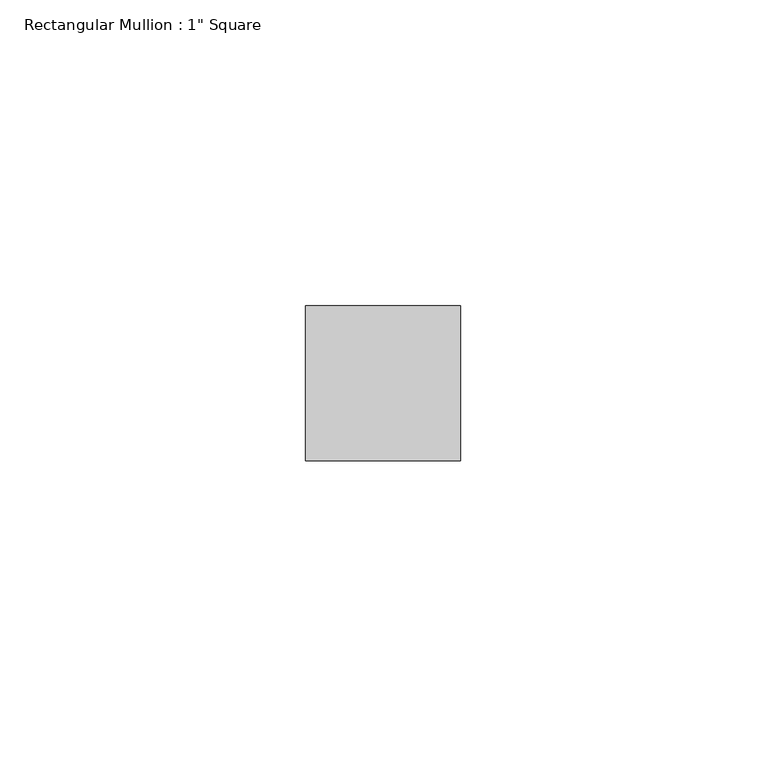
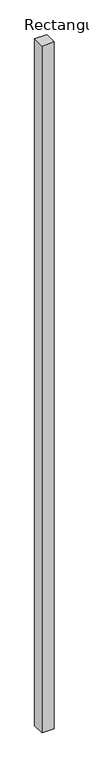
"""IFC4 building model written with IfcOpenShell, lengths in millimetres: member geometry."""

import ifcopenshell
import ifcopenshell.guid

model = None  # the IFC model being written
_history = None  # IfcOwnerHistory: only IFC2X3 demands one
_inside = {}  # id of a spatial element -> (the spatial element, [elements in it])
_under = {}  # id of a project, library or spatial element -> (it, [spatial elements below it])
_declared = {}  # id of a project -> (the project, [libraries it declares])
_typed = {}  # id of a type object -> (the type object, [elements of that type])
_made_of = {}  # id of a material, layer set ... -> (it, [elements and type objects made of it])


def new_model(schema):
    """Start an empty IFC model of exactly this schema.

    Asked for "IFC4X3", IfcOpenShell would pick the latest addendum, in which some entities
    have other attributes; the version numbers below select the first issue.
    IFC2X3 requires an IfcOwnerHistory on every rooted entity: one is made here for all.
    """
    global model, _history
    if schema == "IFC4X3":
        model = ifcopenshell.file(schema_version=(4, 3, 0, 0))
    else:
        model = ifcopenshell.file(schema=schema)
    _inside.clear()
    _under.clear()
    _declared.clear()
    _typed.clear()
    _made_of.clear()
    _history = None
    if model.schema == "IFC2X3":
        org = make("IfcOrganization", Name="unknown")
        user = make(
            "IfcPersonAndOrganization",
            ThePerson=make("IfcPerson", FamilyName="unknown"),
            TheOrganization=org,
        )
        app = make(
            "IfcApplication",
            ApplicationDeveloper=org,
            Version="unknown",
            ApplicationFullName="unknown",
            ApplicationIdentifier="unknown",
        )
        _history = make(
            "IfcOwnerHistory",
            OwningUser=user,
            OwningApplication=app,
            ChangeAction="ADDED",
            CreationDate=0,
        )
    return model


def make(cls, **values):
    """One entity of the class cls with the attributes given. An attribute that is None is left unset."""
    return model.create_entity(
        cls, **{name: value for name, value in values.items() if value is not None}
    )


def rooted(cls, **values):
    """An entity with a GlobalId (a new one), such as an element, a storey or a relation."""
    return make(cls, GlobalId=ifcopenshell.guid.new(), OwnerHistory=_history, **values)


def si_unit(unit_type, name, prefix=None):
    """IfcSIUnit, for example si_unit("LENGTHUNIT", "METRE", prefix="MILLI")."""
    return make("IfcSIUnit", UnitType=unit_type, Prefix=prefix, Name=name)


def assignment(units):
    """IfcUnitAssignment: the units of a project."""
    return None if units is None else make("IfcUnitAssignment", Units=units)


def point(xyz):
    """IfcCartesianPoint."""
    return None if xyz is None else make("IfcCartesianPoint", Coordinates=xyz)


def direction(xyz):
    """IfcDirection."""
    return None if xyz is None else make("IfcDirection", DirectionRatios=xyz)


def frame(location, z_axis=None, x_axis=None):
    """IfcAxis2Placement3D, a coordinate frame: its origin and axes. An axis left out is left unset."""
    return make(
        "IfcAxis2Placement3D",
        Location=point(location),
        Axis=direction(z_axis),
        RefDirection=direction(x_axis),
    )


def origin():
    """The frame at (0, 0, 0) with its axes left unset."""
    return frame((0.0, 0.0, 0.0))


def place(relative_to, where):
    """IfcLocalPlacement: puts the frame where relative to a parent placement (None: the world)."""
    return make(
        "IfcLocalPlacement", PlacementRelTo=relative_to, RelativePlacement=where
    )


def context(
    kind, dimensions, precision=None, world=None, true_north=None, identifier=None
):
    """IfcGeometricRepresentationContext, for example the 3D "Model" context."""
    return make(
        "IfcGeometricRepresentationContext",
        ContextIdentifier=identifier,
        ContextType=kind,
        CoordinateSpaceDimension=dimensions,
        Precision=precision,
        WorldCoordinateSystem=world,
        TrueNorth=true_north,
    )


def project(units=None, contexts=None):
    """IfcProject with its units and contexts."""
    return rooted(
        "IfcProject",
        Name="project",
        RepresentationContexts=contexts,
        UnitsInContext=assignment(units),
    )


def spatial(cls, under=None, at=None, **own):
    """A site, building, storey or space (cls), placed at a placement, below another one or the project."""
    s = rooted(cls, ObjectPlacement=at, **own)
    if under is not None:
        _under.setdefault(under.id(), (under, []))[1].append(s)
    return s


def polyline(points):
    """IfcPolyline through the points."""
    return make("IfcPolyline", Points=[point(p) for p in points])


def outline(outer, holes=None, kind="AREA"):
    """IfcArbitraryClosedProfileDef: a profile drawn as a closed curve; with holes, ...WithVoids."""
    if holes is None:
        return make("IfcArbitraryClosedProfileDef", ProfileType=kind, OuterCurve=outer)
    return make(
        "IfcArbitraryProfileDefWithVoids",
        ProfileType=kind,
        OuterCurve=outer,
        InnerCurves=holes,
    )


def extrude(swept, where, along, depth):
    """IfcExtrudedAreaSolid: the profile swept, set in the frame where, extruded along a direction by depth."""
    return make(
        "IfcExtrudedAreaSolid",
        SweptArea=swept,
        Position=where,
        ExtrudedDirection=direction(along),
        Depth=depth,
    )


def shape(context_of_items, identifier, shape_type, items):
    """IfcShapeRepresentation: the items that make up one representation, for example the "Body"."""
    return make(
        "IfcShapeRepresentation",
        ContextOfItems=context_of_items,
        RepresentationIdentifier=identifier,
        RepresentationType=shape_type,
        Items=items,
    )


def source(mapping_origin, context_of_items, identifier, shape_type, items):
    """IfcRepresentationMap: a shape defined once, which mapped items show again and again."""
    return make(
        "IfcRepresentationMap",
        MappingOrigin=mapping_origin,
        MappedRepresentation=shape(context_of_items, identifier, shape_type, items),
    )


def transform(
    local_origin,
    x_axis=None,
    y_axis=None,
    z_axis=None,
    scale=None,
    scale2=None,
    scale3=None,
    uniform=True,
):
    """IfcCartesianTransformationOperator3D, or its non-uniform kind. x_axis, y_axis, z_axis: its Axis1, 2, 3."""
    if uniform:
        return make(
            "IfcCartesianTransformationOperator3D",
            Axis1=direction(x_axis),
            Axis2=direction(y_axis),
            LocalOrigin=point(local_origin),
            Scale=scale,
            Axis3=direction(z_axis),
        )
    return make(
        "IfcCartesianTransformationOperator3DnonUniform",
        Axis1=direction(x_axis),
        Axis2=direction(y_axis),
        LocalOrigin=point(local_origin),
        Scale=scale,
        Axis3=direction(z_axis),
        Scale2=scale2,
        Scale3=scale3,
    )


def mapped(mapping_source, mapping_target):
    """IfcMappedItem: shows the shape of a source again, moved by a transform."""
    return make(
        "IfcMappedItem", MappingSource=mapping_source, MappingTarget=mapping_target
    )


def made_of(thing, what):
    """Note that an element or type object is made of a material, layer set ...; save() writes the relation."""
    if what is not None:
        _made_of.setdefault(what.id(), (what, []))[1].append(thing)
    return thing


def element(
    cls,
    number,
    at=None,
    inside=None,
    cuts=None,
    type_object=None,
    material=None,
    context=None,
    identifier="Body",
    shape_type=None,
    held_by="IfcProductDefinitionShape",
    body=None,
    shapes=None,
    **own,
):
    """One element of the class cls, such as IfcWall. Its Tag is "e" and its number.

    at: its placement. inside: the storey or other place that contains it. cuts: it is an
    opening in that element (IfcRelVoidsElement). A single representation is given by context,
    identifier, shape_type and body (its items); several are given by shapes. held_by: the class
    of the entity that holds the representations. save() writes the other relations.
    """
    e = rooted(cls, Tag="e%d" % number, ObjectPlacement=at, **own)
    if body is not None:
        shapes = [shape(context, identifier, shape_type, body)]
    if shapes is not None:
        e.Representation = make(held_by, Representations=shapes)
    if inside is not None:
        _inside.setdefault(inside.id(), (inside, []))[1].append(e)
    if cuts is not None:
        rooted(
            "IfcRelVoidsElement", RelatingBuildingElement=cuts, RelatedOpeningElement=e
        )
    if type_object is not None:
        _typed.setdefault(type_object.id(), (type_object, []))[1].append(e)
    return made_of(e, material)


def aggregate(whole, parts):
    """IfcRelAggregates: a whole, such as a stair, and the parts it consists of."""
    return rooted("IfcRelAggregates", RelatingObject=whole, RelatedObjects=parts)


def save(model, path):
    """Write the relations noted so far, then the file.

    IfcRelAggregates (storeys below a building ...), IfcRelContainedInSpatialStructure (elements
    in a storey), IfcRelDefinesByType, IfcRelAssociatesMaterial and IfcRelDeclares: one each for
    every whole, place, type object, material and project.
    """
    for whole, parts in _under.values():
        aggregate(whole, parts)
    for where, things in _inside.values():
        rooted(
            "IfcRelContainedInSpatialStructure",
            RelatedElements=things,
            RelatingStructure=where,
        )
    for kind, things in _typed.values():
        rooted("IfcRelDefinesByType", RelatedObjects=things, RelatingType=kind)
    for what, things in _made_of.values():
        rooted("IfcRelAssociatesMaterial", RelatedObjects=things, RelatingMaterial=what)
    for by, libraries in _declared.values():
        rooted("IfcRelDeclares", RelatingContext=by, RelatedDefinitions=libraries)
    model.write(path)


def member_f532ae18(model_context):
    return source(origin(), model_context, "Body", "SweptSolid", [
        extrude(outline(polyline([(12.7, 12.7), (12.7, -12.7), (-12.7, -12.7), (-12.7, 12.7), (12.7, 12.7)])), frame((0.0, 0.0, -1500.6509175), z_axis=(0.0, 0.0, 1.0), x_axis=(1.0, 0.0, 0.0)), (0.0, 0.0, 1.0), 1500.6509175),
    ])


if __name__ == "__main__":
    model = new_model("IFC4")
    model_context = context("Model", 3, world=origin())
    ifc_project = project(units=[si_unit("LENGTHUNIT", "METRE", prefix="MILLI")], contexts=[model_context])
    site = spatial("IfcSite", under=ifc_project)
    building = spatial("IfcBuilding", under=site)
    placement = place(None, origin())
    member_shape = member_f532ae18(model_context)
    element("IfcMember", 1, ObjectType="Rectangular Mullion : 1\" Square", at=placement, inside=building, context=model_context, shape_type="MappedRepresentation", body=[
        mapped(member_shape, transform((0.0, 0.0, 0.0), x_axis=(1.0, 0.0, 0.0), y_axis=(0.0, 1.0, 0.0), z_axis=(0.0, 0.0, 1.0))),
    ])
    save(model, "model.ifc")
